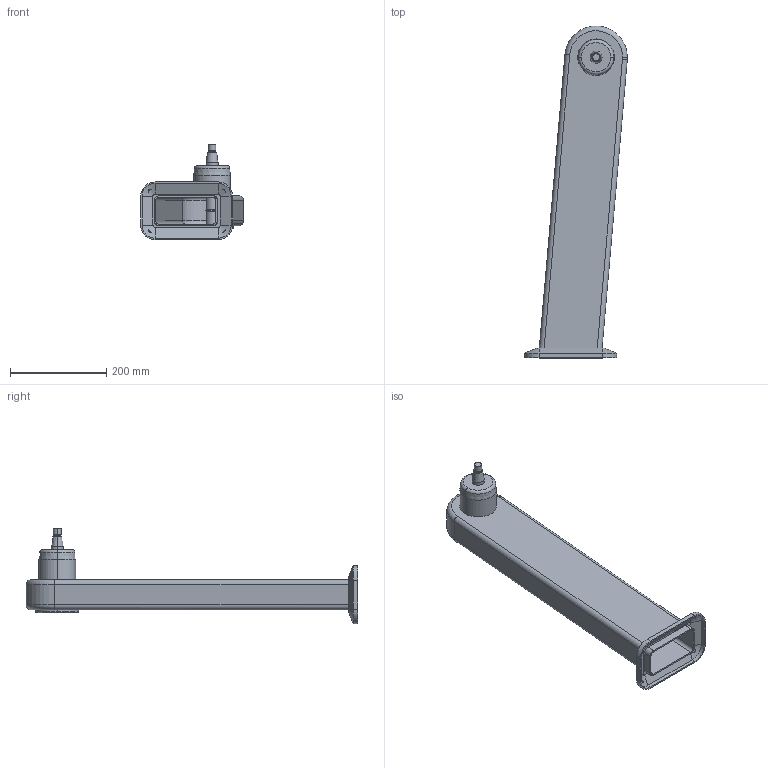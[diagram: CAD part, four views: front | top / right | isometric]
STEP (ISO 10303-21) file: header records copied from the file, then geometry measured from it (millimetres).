
FILE_DESCRIPTION (( 'STEP AP214' ), '1' );
FILE_NAME ('WP710_H625_+05.STEP', '2014-06-27T06:59:14', ( '' ), ( '' ), 'SwSTEP 2.0', 'SolidWorks 2014', '' );
FILE_SCHEMA (( 'AUTOMOTIVE_DESIGN' ));
Length unit declared in the file: millimetre
Products named in the file (1): WP710_H625_+05
Bounding box: 213.43 x 689.94 x 198 mm (x, y, z)
Volume: 1158509.9 mm3; surface area: 557501.9 mm2
Topology: 1 solids, 1 shells, 114 faces, 256 edges, 156 vertices
Faces by surface type: cylinder 42, plane 40, cone 20, torus 12
Entity records: 3285 total; most frequent: CARTESIAN_POINT 680, DIRECTION 570, ORIENTED_EDGE 512, EDGE_CURVE 256, AXIS2_PLACEMENT_3D 221, VERTEX_POINT 156, VECTOR 128, EDGE_LOOP 128
